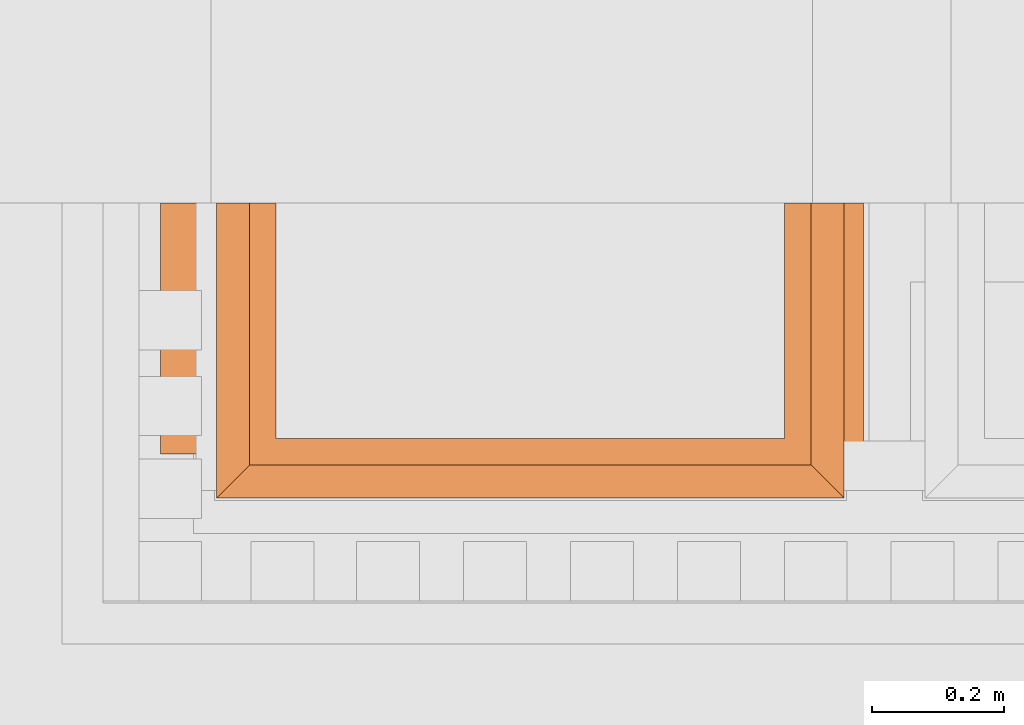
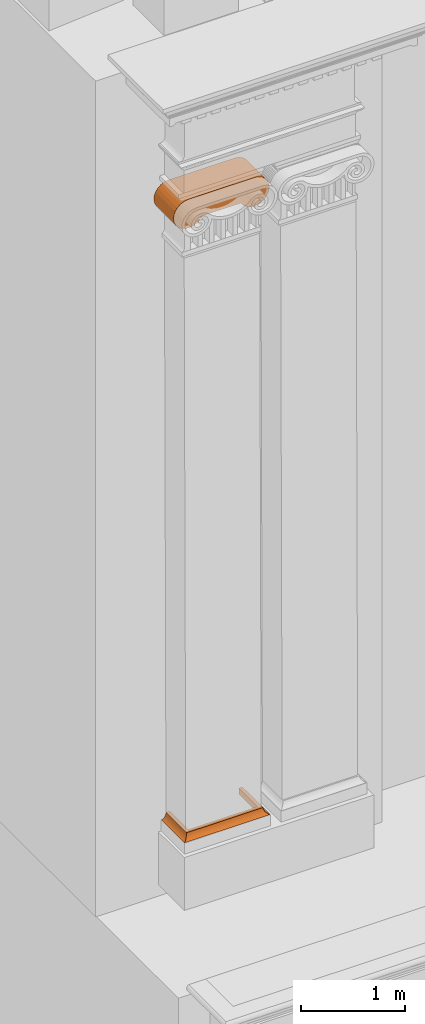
# One storey, part 21 of 44: 2 proxies.
"""IFC2X3 building model written with IfcOpenShell, lengths in metres."""

from ifc_helpers import new_model, entity, si_unit, converted_unit, derived_unit, direction, frame, origin, place, context, subcontext, project, spatial, faceted_brep, material, element, save


model = new_model("IFC2X3")

# Units and contexts
model_context = context("Model", 3, precision=1e-05, world=origin(), true_north=direction((6.12303176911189e-17, 1.0)))
body_context = subcontext(model_context, "Body", "Model", "MODEL_VIEW")
ifc_project = project(units=[si_unit("LENGTHUNIT", "METRE"), si_unit("AREAUNIT", "SQUARE_METRE"), si_unit("VOLUMEUNIT", "CUBIC_METRE"), converted_unit("PLANEANGLEUNIT", "DEGREE", entity("IfcRatioMeasure", 0.0174532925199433), si_unit("PLANEANGLEUNIT", "RADIAN"), dimensions=[0, 0, 0, 0, 0, 0, 0]), si_unit("MASSUNIT", "GRAM", prefix="KILO"), derived_unit("MASSDENSITYUNIT", [(si_unit("MASSUNIT", "GRAM", prefix="KILO"), 1), (si_unit("LENGTHUNIT", "METRE"), -3)]), si_unit("TIMEUNIT", "SECOND"), si_unit("FREQUENCYUNIT", "HERTZ"), si_unit("THERMODYNAMICTEMPERATUREUNIT", "DEGREE_CELSIUS"), derived_unit("THERMALTRANSMITTANCEUNIT", [(si_unit("MASSUNIT", "GRAM", prefix="KILO"), 1), (si_unit("THERMODYNAMICTEMPERATUREUNIT", "KELVIN"), -1), (si_unit("TIMEUNIT", "SECOND"), -3)]), derived_unit("VOLUMETRICFLOWRATEUNIT", [(si_unit("LENGTHUNIT", "METRE"), 3), (si_unit("TIMEUNIT", "SECOND"), -1)]), si_unit("ELECTRICCURRENTUNIT", "AMPERE"), si_unit("ELECTRICVOLTAGEUNIT", "VOLT"), si_unit("POWERUNIT", "WATT"), si_unit("FORCEUNIT", "NEWTON", prefix="KILO"), si_unit("ILLUMINANCEUNIT", "LUX"), si_unit("LUMINOUSFLUXUNIT", "LUMEN"), si_unit("LUMINOUSINTENSITYUNIT", "CANDELA"), derived_unit("USERDEFINED", [(si_unit("MASSUNIT", "GRAM", prefix="KILO"), -1), (si_unit("LENGTHUNIT", "METRE"), -2), (si_unit("TIMEUNIT", "SECOND"), 3), (si_unit("LUMINOUSFLUXUNIT", "LUMEN"), 1)]), derived_unit("LINEARVELOCITYUNIT", [(si_unit("LENGTHUNIT", "METRE"), 1), (si_unit("TIMEUNIT", "SECOND"), -1)]), si_unit("PRESSUREUNIT", "PASCAL"), derived_unit("USERDEFINED", [(si_unit("LENGTHUNIT", "METRE"), -2), (si_unit("MASSUNIT", "GRAM", prefix="KILO"), 1), (si_unit("TIMEUNIT", "SECOND"), -2)])], contexts=[model_context])

# Site, building, storey
site_placement = place(None, origin())
site = spatial("IfcSite", under=ifc_project, at=site_placement, Name="Default", CompositionType="ELEMENT")
building_placement = place(site_placement, origin())
building = spatial("IfcBuilding", under=site, at=building_placement, CompositionType="ELEMENT")
storey_placement = place(building_placement, origin())
storey = spatial("IfcBuildingStorey", under=building, at=storey_placement, Name="Livello 1", CompositionType="ELEMENT", Elevation=0.0)

# Proxies
ifc_material = material(Name="Travertino")
proxy_1_placement = place(storey_placement, frame((-11.5900496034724, 0.883372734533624, 21.2533908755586)))
element("IfcBuildingElementProxy", 1, at=proxy_1_placement, inside=storey, material=ifc_material, Name="Stratigrafia", context=body_context, shape_type="Brep", body=[
    faceted_brep([(0.227068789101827, 0.13, 0.0156237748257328), (0.228992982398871, 0.13, 0.0157417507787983), (0.230920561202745, 0.13, 0.0157713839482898), (0.23276441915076, 0.13, 0.0157169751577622), (0.234604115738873, 0.13, 0.0155817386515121), (0.235377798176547, 0.13, 0.0155005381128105), (0.236149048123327, 0.13, 0.0154051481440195), (0.219471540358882, 0.13, 0.00918128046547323), (0.202228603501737, 0.13, 0.00475895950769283), (0.202441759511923, 0.13, 0.00495230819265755), (0.202656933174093, 0.13, 0.00514482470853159), (0.205538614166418, 0.13, 0.00748647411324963), (0.208615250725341, 0.13, 0.00956534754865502), (0.21130606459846, 0.13, 0.0110826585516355), (0.214100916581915, 0.13, 0.0123985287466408), (0.21684041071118, 0.13, 0.0134560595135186), (0.219647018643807, 0.13, 0.0143198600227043), (0.221437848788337, 0.13, 0.0147613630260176), (0.223246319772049, 0.13, 0.015123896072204), (0.225151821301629, 0.13, 0.0154176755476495), (0.202441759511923, 0.195, 0.00495230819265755), (0.202228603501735, 0.195, 0.00475895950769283), (0.219471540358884, 0.195, 0.00918128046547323), (0.236149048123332, 0.195, 0.0154051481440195), (0.235377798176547, 0.195, 0.0155005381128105), (0.234604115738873, 0.195, 0.0155817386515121), (0.23276441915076, 0.195, 0.0157169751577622), (0.230920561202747, 0.195, 0.0157713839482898), (0.228992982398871, 0.195, 0.0157417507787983), (0.227068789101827, 0.195, 0.0156237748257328), (0.225151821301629, 0.195, 0.0154176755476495), (0.223246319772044, 0.195, 0.015123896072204), (0.221437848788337, 0.195, 0.0147613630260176), (0.219647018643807, 0.195, 0.0143198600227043), (0.21684041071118, 0.195, 0.0134560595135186), (0.214100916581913, 0.195, 0.0123985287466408), (0.21130606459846, 0.195, 0.0110826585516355), (0.208615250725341, 0.195, 0.00956534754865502), (0.205538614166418, 0.195, 0.00748647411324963), (0.202656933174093, 0.195, 0.00514482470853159), (0.235311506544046, 0.14769119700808, 0.015508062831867), (0.234604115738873, 0.15122943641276, 0.0155817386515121), (0.23535053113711, 0.153479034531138, 0.0155036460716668), (0.235306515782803, 0.158497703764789, 0.0155086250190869), (0.236149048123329, 0.1625, 0.0154051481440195), (0.236149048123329, 0.1584375, 0.0154051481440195), (0.236149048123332, 0.154375, 0.0154051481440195), (0.236149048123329, 0.187923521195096, 0.0154051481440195), (0.235377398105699, 0.184385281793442, 0.0155005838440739), (0.235447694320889, 0.189692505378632, 0.0154924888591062), (0.235285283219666, 0.163523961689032, 0.0155110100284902), (0.234604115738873, 0.16747943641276, 0.0155817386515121), (0.235367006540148, 0.169772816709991, 0.0155017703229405), (0.234604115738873, 0.187923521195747, 0.0155817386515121), (0.236149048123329, 0.14625, 0.0154051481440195), (0.235377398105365, 0.140614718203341, 0.0155005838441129), (0.234604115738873, 0.144152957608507, 0.0155817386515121), (0.234604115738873, 0.137076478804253, 0.0155817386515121), (0.234604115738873, 0.182288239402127, 0.0155817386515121), (0.235392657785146, 0.17846167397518, 0.015498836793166), (0.234604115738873, 0.172066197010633, 0.0155817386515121), (0.236149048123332, 0.137076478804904, 0.0154051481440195), (0.235307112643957, 0.135307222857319, 0.0155085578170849), (0.236149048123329, 0.180847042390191, 0.0154051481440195), (0.234604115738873, 0.176652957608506, 0.0155817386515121), (0.234604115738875, 0.180849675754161, 0.0155817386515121), (0.236149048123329, 0.171673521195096, 0.0154051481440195), (0.234604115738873, 0.158305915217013, 0.0155817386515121), (0.234604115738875, 0.1625, 0.0155817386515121), (0.232764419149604, 0.151225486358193, 0.0157169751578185), (0.232651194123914, 0.1654432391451, 0.0157226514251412), (0.230920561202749, 0.158300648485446, 0.0157713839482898), (0.230920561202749, 0.144150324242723, 0.0157713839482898), (0.232764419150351, 0.181836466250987, 0.0157169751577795), (0.230920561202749, 0.180849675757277, 0.0157713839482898), (0.230920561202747, 0.1625, 0.0157713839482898), (0.22899298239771, 0.151224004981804, 0.015741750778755), (0.228865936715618, 0.166307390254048, 0.0157366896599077), (0.227068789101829, 0.158298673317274, 0.0156237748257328), (0.227068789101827, 0.144149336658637, 0.0156237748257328), (0.228992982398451, 0.181275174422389, 0.015741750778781), (0.227068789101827, 0.180850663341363, 0.0156237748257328), (0.227068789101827, 0.1625, 0.0156237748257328), (0.225151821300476, 0.151224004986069, 0.0154176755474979), (0.225025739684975, 0.16630961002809, 0.0154009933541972), (0.223246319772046, 0.15829867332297, 0.015123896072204), (0.223246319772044, 0.144149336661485, 0.015123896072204), (0.225151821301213, 0.181273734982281, 0.0154176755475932), (0.223246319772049, 0.180850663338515, 0.015123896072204), (0.223246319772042, 0.1625, 0.015123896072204), (0.221437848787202, 0.15122548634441, 0.014761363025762), (0.221327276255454, 0.165441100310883, 0.0147365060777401), (0.219647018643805, 0.158300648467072, 0.0143198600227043), (0.219647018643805, 0.144150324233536, 0.0143198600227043), (0.221437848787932, 0.181837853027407, 0.0147613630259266), (0.219647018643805, 0.180849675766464, 0.0143198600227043), (0.219647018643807, 0.1625, 0.0143198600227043), (0.217295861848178, 0.150768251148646, 0.0136109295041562), (0.216694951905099, 0.171325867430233, 0.0134053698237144), (0.214100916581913, 0.158305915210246, 0.0123985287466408), (0.214100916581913, 0.166683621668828, 0.0123985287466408), (0.211427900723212, 0.154345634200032, 0.0111453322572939), (0.210711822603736, 0.174546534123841, 0.0107697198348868), (0.208615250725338, 0.1625, 0.00956534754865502), (0.208615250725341, 0.166667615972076, 0.00956534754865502), (0.202656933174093, 0.158332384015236, 0.00514482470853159), (0.202656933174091, 0.16046875, 0.00514482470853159), (0.202656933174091, 0.1625, 0.00514482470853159), (0.202656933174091, 0.164790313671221, 0.00514482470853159), (0.202656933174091, 0.167080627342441, 0.00514482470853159), (0.202656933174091, 0.169370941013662, 0.00514482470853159), (0.202656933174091, 0.171661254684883, 0.00514482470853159), (0.202656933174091, 0.173951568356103, 0.00514482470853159), (0.202656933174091, 0.176241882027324, 0.00514482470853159), (0.202656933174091, 0.178532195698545, 0.00514482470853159), (0.202656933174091, 0.180822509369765, 0.00514482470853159), (0.202656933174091, 0.184366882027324, 0.00514482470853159), (0.202656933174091, 0.187911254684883, 0.00514482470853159), (0.202656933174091, 0.191455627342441, 0.00514482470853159), (0.205631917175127, 0.15726318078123, 0.00755549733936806), (0.202656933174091, 0.133544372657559, 0.00514482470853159), (0.202656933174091, 0.135834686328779, 0.00514482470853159), (0.202656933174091, 0.138125, 0.00514482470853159), (0.202656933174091, 0.14015625, 0.00514482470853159), (0.202656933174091, 0.1421875, 0.00514482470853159), (0.202656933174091, 0.14421875, 0.00514482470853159), (0.202656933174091, 0.14625, 0.00514482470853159), (0.202656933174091, 0.14828125, 0.00514482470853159), (0.202656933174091, 0.1503125, 0.00514482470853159), (0.202656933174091, 0.15234375, 0.00514482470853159), (0.202656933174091, 0.154375, 0.00514482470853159), (0.202656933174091, 0.15640625, 0.00514482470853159), (0.202435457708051, 0.141578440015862, 0.00494662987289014), (0.202442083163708, 0.139378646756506, 0.00495259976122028), (0.202452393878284, 0.179677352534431, 0.00496188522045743), (0.202452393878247, 0.17738703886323, 0.00496188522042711), (0.202228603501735, 0.176677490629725, 0.00475895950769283), (0.202228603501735, 0.17896780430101, 0.00475895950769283), (0.202228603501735, 0.181258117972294, 0.00475895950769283), (0.202228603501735, 0.172096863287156, 0.00475895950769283), (0.202228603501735, 0.174387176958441, 0.00475895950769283), (0.202452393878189, 0.172806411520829, 0.00496188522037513), (0.202439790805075, 0.159500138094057, 0.00495053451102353), (0.202228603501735, 0.15835498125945, 0.0047589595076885), (0.202228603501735, 0.160645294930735, 0.00475895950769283), (0.202228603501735, 0.169806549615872, 0.00475895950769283), (0.202461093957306, 0.170711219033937, 0.00496971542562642), (0.202433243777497, 0.168631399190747, 0.0049446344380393), (0.202424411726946, 0.19160860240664, 0.00493667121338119), (0.202438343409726, 0.132344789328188, 0.00494923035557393), (0.202228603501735, 0.133544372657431, 0.00475895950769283), (0.202442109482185, 0.134689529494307, 0.00495262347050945), (0.202457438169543, 0.189405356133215, 0.00496642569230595), (0.202228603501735, 0.190419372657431, 0.00475895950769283), (0.20246004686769, 0.147464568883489, 0.00496877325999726), (0.202432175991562, 0.150380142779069, 0.00494367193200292), (0.202444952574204, 0.157042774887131, 0.00495518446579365), (0.202441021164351, 0.145234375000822, 0.00495164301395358), (0.202228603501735, 0.147721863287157, 0.00475895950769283), (0.202433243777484, 0.164050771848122, 0.00494463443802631), (0.202228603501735, 0.193227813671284, 0.00475895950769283), (0.202228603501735, 0.162935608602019, 0.00475895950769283), (0.20243182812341, 0.161790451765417, 0.00494335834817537), (0.202228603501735, 0.165225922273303, 0.00475895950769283), (0.202228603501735, 0.167516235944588, 0.00475895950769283), (0.20243182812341, 0.166371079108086, 0.00494335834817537), (0.202228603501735, 0.154810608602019, 0.00475895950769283), (0.202451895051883, 0.181922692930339, 0.00496143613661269), (0.202450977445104, 0.175126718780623, 0.00496060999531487), (0.202458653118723, 0.136979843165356, 0.0049675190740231), (0.202228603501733, 0.185838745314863, 0.00475895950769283), (0.202435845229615, 0.186993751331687, 0.00494697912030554), (0.202426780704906, 0.184693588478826, 0.00493880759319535), (0.202452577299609, 0.154996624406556, 0.00496205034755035), (0.202228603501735, 0.151266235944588, 0.00475895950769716), (0.202431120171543, 0.152959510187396, 0.00494272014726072), (0.202228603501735, 0.183548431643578, 0.00475895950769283), (0.202228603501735, 0.188129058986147, 0.00475895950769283), (0.202228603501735, 0.140633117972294, 0.00475895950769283), (0.202228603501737, 0.137088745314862, 0.00475895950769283), (0.202228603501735, 0.144177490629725, 0.00475895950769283), (0.202228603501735, 0.149494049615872, 0.00475895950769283), (1.0616159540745, 0.0, 0.204508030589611), (1.04705822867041, 0.0, 0.245490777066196), (1.02245795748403, 0.0, 0.281356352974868), (0.989467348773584, 0.0, 0.309695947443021), (0.950302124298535, 0.0, 0.328606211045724), (0.907592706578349, 0.0, 0.336817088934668), (0.159155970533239, 0.0, 0.336817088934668), (0.116446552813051, 0.0, 0.328606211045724), (0.0772813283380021, 0.0, 0.309695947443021), (0.0442907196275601, 0.0, 0.281356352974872), (0.0196904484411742, 0.0, 0.245490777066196), (0.00513272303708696, 0.0, 0.204508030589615), (0.0015952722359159, 0.0, 0.161160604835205), (0.00931567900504, 0.0, 0.118359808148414), (0.0277754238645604, 0.0, 0.0789802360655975), (0.0557347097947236, 0.0, 0.0456667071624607), (0.0913157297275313, 0.0, 0.0206566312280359), (0.132128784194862, 0.0, 0.00562973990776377), (0.175432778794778, 0.0, 0.0015952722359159), (0.196876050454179, 0.0, 0.00520973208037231), (0.218319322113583, 0.0, 0.00882419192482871), (0.238113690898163, 0.0, 0.0178275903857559), (0.257908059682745, 0.0, 0.0268309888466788), (0.291540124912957, 0.0, 0.0544062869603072), (0.316956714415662, 0.0, 0.0896980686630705), (0.749791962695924, 0.0, 0.0896980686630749), (0.775208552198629, 0.0, 0.0544062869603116), (0.80884061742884, 0.0, 0.0268309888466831), (0.848429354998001, 0.0, 0.00882419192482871), (0.891315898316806, 0.0, 0.0015952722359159), (0.934619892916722, 0.0, 0.00562973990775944), (0.975432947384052, 0.0, 0.0206566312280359), (1.01101396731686, 0.0, 0.0456667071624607), (1.03897325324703, 0.0, 0.0789802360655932), (1.05743299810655, 0.0, 0.118359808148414), (1.06515340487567, 0.0, 0.161160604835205), (0.00513272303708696, 0.38, 0.204508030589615), (0.0196904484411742, 0.38, 0.245490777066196), (0.0442907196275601, 0.38, 0.281356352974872), (0.0772813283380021, 0.38, 0.309695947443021), (0.116446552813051, 0.38, 0.328606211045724), (0.159155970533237, 0.38, 0.336817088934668), (0.907592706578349, 0.38, 0.336817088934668), (0.950302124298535, 0.38, 0.328606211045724), (0.989467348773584, 0.38, 0.309695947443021), (1.02245795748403, 0.38, 0.281356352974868), (1.04705822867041, 0.38, 0.245490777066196), (1.0616159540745, 0.38, 0.204508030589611), (1.06515340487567, 0.38, 0.161160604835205), (1.05743299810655, 0.38, 0.118359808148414), (1.03897325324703, 0.38, 0.0789802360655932), (1.01101396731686, 0.38, 0.0456667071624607), (0.975432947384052, 0.38, 0.0206566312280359), (0.934619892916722, 0.38, 0.00562973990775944), (0.891315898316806, 0.38, 0.0015952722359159), (0.848429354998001, 0.38, 0.00882419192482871), (0.80884061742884, 0.38, 0.0268309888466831), (0.775208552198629, 0.38, 0.0544062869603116), (0.749791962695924, 0.38, 0.0896980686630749), (0.316956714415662, 0.38, 0.0896980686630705), (0.291540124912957, 0.38, 0.0544062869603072), (0.257908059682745, 0.38, 0.0268309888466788), (0.218319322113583, 0.38, 0.00882419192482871), (0.175432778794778, 0.38, 0.0015952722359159), (0.132128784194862, 0.38, 0.00562973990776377), (0.0913157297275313, 0.38, 0.0206566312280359), (0.0557347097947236, 0.38, 0.0456667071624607), (0.0277754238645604, 0.38, 0.0789802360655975), (0.00931567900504, 0.38, 0.118359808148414), (0.0015952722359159, 0.38, 0.161160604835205)], [[[0, 1, 2, 3, 4, 5, 6, 7, 8, 9, 10, 11, 12, 13, 14, 15, 16, 17, 18, 19]], [[20, 21, 22, 23, 24, 25, 26, 27, 28, 29, 30, 31, 32, 33, 34, 35, 36, 37, 38, 39]], [[40, 41, 42]], [[43, 44, 45, 46]], [[47, 48, 49]], [[50, 51, 52]], [[48, 53, 49]], [[40, 54, 55]], [[56, 55, 57]], [[58, 53, 48]], [[58, 48, 59]], [[51, 60, 52]], [[52, 44, 50]], [[55, 61, 62]], [[40, 42, 46]], [[49, 53, 25]], [[62, 61, 6]], [[63, 48, 47]], [[61, 55, 54]], [[49, 24, 23]], [[62, 5, 4]], [[63, 59, 48]], [[41, 40, 56]], [[59, 60, 64, 65, 58]], [[57, 55, 62]], [[59, 63, 66]], [[66, 44, 52]], [[59, 52, 60]], [[66, 52, 59]], [[50, 67, 68, 51]], [[56, 40, 55]], [[54, 40, 46]], [[44, 43, 50]], [[42, 41, 67]], [[67, 50, 43]], [[47, 49, 23]], [[25, 24, 49]], [[57, 62, 4]], [[6, 5, 62]], [[43, 42, 67]], [[46, 42, 43]], [[69, 70, 68]], [[71, 69, 3, 2, 72]], [[73, 74, 27, 26]], [[73, 26, 25, 53, 58, 65]], [[56, 57, 4, 3, 69, 68, 67, 41]], [[70, 73, 65]], [[71, 70, 69]], [[70, 65, 64, 60, 51, 68]], [[70, 71, 75, 74]], [[74, 73, 70]], [[76, 77, 75]], [[78, 76, 1, 0, 79]], [[80, 81, 29, 28]], [[80, 28, 27, 74]], [[72, 2, 1, 76, 75, 71]], [[77, 80, 74]], [[78, 77, 76]], [[75, 77, 74]], [[77, 78, 82, 81]], [[81, 80, 77]], [[83, 84, 82]], [[85, 83, 19, 18, 86]], [[87, 88, 31, 30]], [[87, 30, 29, 81]], [[79, 0, 19, 83, 82, 78]], [[84, 87, 81]], [[85, 84, 83]], [[82, 84, 81]], [[84, 85, 89, 88]], [[88, 87, 84]], [[90, 91, 89]], [[92, 90, 17, 16, 93]], [[94, 95, 33, 32]], [[94, 32, 31, 88]], [[86, 18, 17, 90, 89, 85]], [[91, 94, 88]], [[92, 91, 90]], [[89, 91, 88]], [[91, 92, 96, 95]], [[95, 94, 91]], [[97, 96, 92, 93, 16]], [[15, 97, 16]], [[97, 98, 96]], [[98, 99, 100, 35]], [[98, 34, 33]], [[97, 15, 14]], [[97, 14, 99]], [[34, 98, 35]], [[98, 97, 99]], [[98, 33, 95, 96]], [[13, 12, 101]], [[36, 102, 37]], [[102, 101, 103]], [[102, 103, 104, 37]], [[101, 100, 99, 14]], [[101, 12, 103]], [[102, 35, 100]], [[13, 101, 14]], [[101, 102, 100]], [[102, 36, 35]], [[38, 105, 106, 107, 108, 109, 110, 111, 112, 113, 114, 115, 116, 117, 118, 39]], [[119, 105, 38]], [[11, 119, 12]], [[119, 104, 103, 12]], [[119, 10, 120, 121, 122, 123, 124, 125, 126, 127, 128, 129, 130, 131, 105]], [[104, 119, 38]], [[119, 11, 10]], [[38, 37, 104]], [[132, 123, 133]], [[134, 135, 136, 137, 138]], [[139, 140, 141]], [[142, 143, 144]], [[145, 146, 147]], [[148, 20, 39]], [[9, 8, 149]], [[149, 150, 151]], [[152, 153, 148]], [[154, 155, 127]], [[156, 143, 142]], [[114, 113, 135, 134, 115]], [[112, 111, 141]], [[154, 157, 158]], [[107, 159, 108]], [[110, 109, 147]], [[160, 21, 20]], [[144, 161, 162]], [[163, 164, 165]], [[156, 166, 143]], [[167, 115, 134]], [[136, 168, 140]], [[151, 120, 149]], [[111, 110, 146]], [[106, 105, 142]], [[149, 120, 10]], [[121, 151, 169]], [[139, 141, 146]], [[170, 171, 172]], [[156, 131, 173]], [[106, 142, 162]], [[20, 148, 160]], [[162, 107, 106]], [[109, 108, 165]], [[155, 174, 175]], [[105, 156, 142]], [[173, 175, 166]], [[144, 162, 142]], [[162, 161, 159]], [[165, 164, 147]], [[159, 107, 162]], [[147, 109, 165]], [[159, 165, 108]], [[135, 113, 168]], [[168, 136, 135]], [[168, 141, 140]], [[116, 167, 172]], [[159, 161, 163]], [[147, 164, 145]], [[163, 165, 159]], [[141, 111, 146]], [[168, 113, 112]], [[112, 141, 168]], [[145, 139, 146]], [[116, 172, 171]], [[138, 167, 134]], [[167, 116, 115]], [[176, 172, 167]], [[170, 172, 176]], [[167, 138, 176]], [[117, 116, 171]], [[117, 171, 152]], [[171, 177, 152]], [[152, 118, 117]], [[118, 152, 148]], [[153, 152, 177]], [[171, 170, 177]], [[147, 146, 110]], [[39, 118, 148]], [[148, 153, 160]], [[133, 178, 132]], [[125, 124, 123, 132]], [[121, 120, 151]], [[169, 179, 133]], [[156, 105, 131]], [[132, 180, 157]], [[130, 173, 131]], [[169, 122, 121]], [[151, 150, 179]], [[150, 149, 8]], [[10, 9, 149]], [[122, 169, 133]], [[179, 169, 151]], [[178, 133, 179]], [[125, 157, 126]], [[132, 178, 180]], [[132, 157, 125]], [[126, 157, 154]], [[157, 180, 158]], [[128, 127, 155, 129]], [[158, 181, 154]], [[181, 155, 154]], [[155, 181, 174]], [[175, 129, 155]], [[130, 175, 173]], [[175, 174, 166]], [[127, 126, 154]], [[123, 122, 133]], [[175, 130, 129]], [[156, 173, 166]], [[182, 183, 184, 185, 186, 187, 188, 189, 190, 191, 192, 193, 194, 195, 196, 197, 198, 199, 200, 201, 202, 203, 204, 205, 206, 207, 208, 209, 210, 211, 212, 213, 214, 215, 216, 217]], [[218, 219, 220, 221, 222, 223, 224, 225, 226, 227, 228, 229, 230, 231, 232, 233, 234, 235, 236, 237, 238, 239, 240, 241, 242, 243, 244, 245, 246, 247, 248, 249, 250, 251]], [[190, 221, 220, 191]], [[188, 223, 222, 189]], [[221, 190, 189, 222]], [[191, 220, 219, 192]], [[250, 249, 196, 195]], [[193, 218, 251, 194]], [[194, 251, 250, 195]], [[219, 218, 193, 192]], [[196, 249, 248, 197]], [[248, 247, 198, 197]], [[245, 244, 21]], [[198, 247, 246, 199]], [[245, 200, 199, 246]], [[21, 160, 153, 177, 170, 176, 138, 137, 136, 140, 139, 145, 164, 163, 161, 144, 143, 166, 174, 181, 158, 180, 178, 179, 150, 8, 200, 245]], [[244, 22, 21]], [[204, 243, 242, 205]], [[244, 23, 22]], [[23, 244, 243]], [[204, 6, 61, 54, 46, 45, 44, 66, 63, 47, 23, 243]], [[8, 202, 201, 200]], [[242, 241, 206, 205]], [[8, 7, 202]], [[6, 204, 203, 202]], [[6, 202, 7]], [[207, 206, 241, 240]], [[209, 238, 237, 210]], [[208, 239, 238, 209]], [[210, 237, 236, 211]], [[234, 233, 214, 213]], [[212, 235, 234, 213]], [[211, 236, 235, 212]], [[214, 233, 232, 215]], [[240, 239, 208, 207]], [[217, 230, 229, 182]], [[216, 231, 230, 217]], [[182, 229, 228, 183]], [[226, 225, 186, 185]], [[184, 227, 226, 185]], [[183, 228, 227, 184]], [[186, 225, 224, 187]], [[215, 232, 231, 216]], [[188, 187, 224, 223]]]),
])
proxy_2_placement = place(storey_placement, frame((-11.5050650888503, 0.81541504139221, 14.0972913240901)))
element("IfcBuildingElementProxy", 2, at=proxy_2_placement, inside=storey, Name="Stratigrafia", context=body_context, shape_type="Brep", body=[
    faceted_brep([(0.860981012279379, 0.447957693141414, 0.0015952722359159), (0.860981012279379, 0.447957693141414, 0.0725246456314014), (0.900981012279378, 0.447957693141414, 0.0725246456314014), (0.901984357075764, 0.447957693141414, 0.057057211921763), (0.906320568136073, 0.447957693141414, 0.0421761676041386), (0.913782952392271, 0.447957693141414, 0.028590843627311), (0.924015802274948, 0.447957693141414, 0.0169488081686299), (0.9365313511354, 0.447957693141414, 0.00780499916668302), (0.950733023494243, 0.447957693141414, 0.0015952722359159), (0.00159527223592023, 0.447957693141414, 0.0015952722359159), (0.0157969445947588, 0.447957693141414, 0.00780499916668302), (0.0283124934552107, 0.447957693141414, 0.0169488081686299), (0.038545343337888, 0.447957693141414, 0.028590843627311), (0.0460077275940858, 0.447957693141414, 0.0421761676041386), (0.0503439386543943, 0.447957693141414, 0.057057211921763), (0.0513472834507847, 0.447957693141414, 0.0725246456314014), (0.0913472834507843, 0.447957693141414, 0.0725246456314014), (0.0913472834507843, 0.447957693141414, 0.0015952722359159), (0.901984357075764, 0.0503439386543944, 0.057057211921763), (0.906320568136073, 0.0460077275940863, 0.0421761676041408), (0.913782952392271, 0.0385453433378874, 0.028590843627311), (0.900981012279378, 0.0513472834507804, 0.0725246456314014), (0.924015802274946, 0.0283124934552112, 0.0169488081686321), (0.9365313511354, 0.0157969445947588, 0.00780499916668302), (0.950733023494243, 0.00159527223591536, 0.0015952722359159), (0.590003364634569, 0.00159527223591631, 0.0015952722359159), (0.00159527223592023, 0.00159527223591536, 0.0015952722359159), (0.0913472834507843, 0.0913472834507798, 0.0015952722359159), (0.860981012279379, 0.0913472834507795, 0.0015952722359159), (0.860981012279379, 0.0913472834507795, 0.0725246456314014), (0.0513472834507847, 0.0513472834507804, 0.0725246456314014), (0.312572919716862, 0.0513472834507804, 0.0725246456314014), (0.0913472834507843, 0.0913472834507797, 0.0725246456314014), (0.572423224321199, 0.0334274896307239, 0.0221280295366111), (0.0157969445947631, 0.0157969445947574, 0.00780499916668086), (0.476164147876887, 0.0424788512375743, 0.0348723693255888), (0.0503439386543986, 0.0503439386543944, 0.057057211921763), (0.476164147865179, 0.0502370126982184, 0.0564642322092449), (0.476164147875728, 0.0218065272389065, 0.0116734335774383), (0.0460077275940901, 0.0460077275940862, 0.0421761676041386), (0.028312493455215, 0.0283124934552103, 0.0169488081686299), (0.0385453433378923, 0.0385453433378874, 0.028590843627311)], [[[0, 1, 2, 3, 4, 5, 6, 7, 8]], [[9, 10, 11, 12, 13, 14, 15, 16, 17]], [[4, 3, 18, 19]], [[5, 4, 19, 20]], [[21, 18, 3, 2]], [[7, 6, 22, 23]], [[8, 7, 23, 24]], [[6, 5, 20, 22]], [[0, 8, 24, 25, 26, 9, 17, 27, 28]], [[1, 0, 28, 29]], [[16, 15, 30, 31, 21, 2, 1, 29, 32]], [[33, 22, 20]], [[25, 34, 26]], [[23, 25, 24]], [[19, 35, 20]], [[31, 36, 37]], [[31, 37, 21]], [[23, 38, 25]], [[18, 21, 37]], [[39, 37, 36]], [[38, 40, 34]], [[18, 37, 19]], [[37, 35, 19]], [[35, 37, 39]], [[35, 33, 20]], [[38, 34, 25]], [[36, 31, 30]], [[41, 40, 33]], [[38, 33, 40]], [[41, 33, 35]], [[38, 23, 22]], [[35, 39, 41]], [[38, 22, 33]], [[29, 28, 27, 32]], [[12, 41, 39, 13]], [[13, 39, 36, 14]], [[14, 36, 30, 15]], [[9, 26, 34, 10]], [[10, 34, 40, 11]], [[12, 11, 40, 41]], [[32, 27, 17, 16]]]),
])

save(model, "model.ifc")
